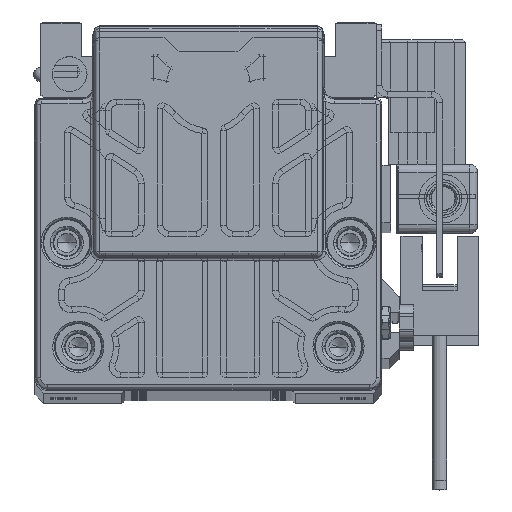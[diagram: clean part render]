
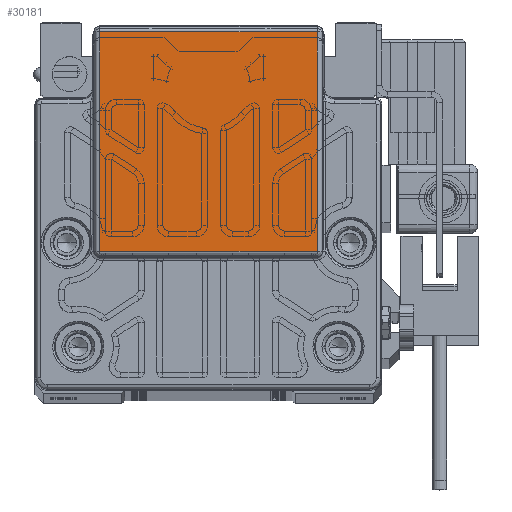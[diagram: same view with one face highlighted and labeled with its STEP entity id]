
A CAD part, top view. The second image highlights one B-rep face of the part: STEP entity #30181.
In plain terms, the highlighted planar face has unit normal (0, 0, 1) as drawn and (0, 0, -1) by its records, which use the part's own axes.
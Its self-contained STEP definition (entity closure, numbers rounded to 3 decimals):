
#248 = LINE ( 'NONE', #18480, #17784 ) ;
#2631 = EDGE_LOOP ( 'NONE', ( #63771, #77733, #44925, #75519 ) ) ;
#3721 = CARTESIAN_POINT ( 'NONE',  ( 19., 62.447, -143. ) ) ;
#11503 = LINE ( 'NONE', #35409, #57689 ) ;
#16182 = VERTEX_POINT ( 'NONE', #56972 ) ;
#17784 = VECTOR ( 'NONE', #67886, 1000. ) ;
#18157 = VECTOR ( 'NONE', #22363, 1000. ) ;
#18480 = CARTESIAN_POINT ( 'NONE',  ( 18.808, 24.5, -143. ) ) ;
#20561 = AXIS2_PLACEMENT_3D ( 'NONE', #45640, #33087, #22837 ) ;
#22363 = DIRECTION ( 'NONE',  ( 1., 0., 0. ) ) ;
#22837 = DIRECTION ( 'NONE',  ( 0., 1., 0. ) ) ;
#25021 = VERTEX_POINT ( 'NONE', #31866 ) ;
#26328 = VERTEX_POINT ( 'NONE', #42740 ) ;
#28813 = LINE ( 'NONE', #3721, #18157 ) ;
#29319 = DIRECTION ( 'NONE',  ( 0., -1., 0. ) ) ;
#30181 = ADVANCED_FACE ( 'NONE', ( #45248 ), #78343, .T. ) ;
#31866 = CARTESIAN_POINT ( 'NONE',  ( 18.808, 24.518, -143. ) ) ;
#33087 = DIRECTION ( 'NONE',  ( 0., 0., -1. ) ) ;
#35409 = CARTESIAN_POINT ( 'NONE',  ( -18.808, 31., -143. ) ) ;
#42740 = CARTESIAN_POINT ( 'NONE',  ( 18.808, 62.447, -143. ) ) ;
#44925 = ORIENTED_EDGE ( 'NONE', *, *, #56242, .F. ) ;
#45248 = FACE_OUTER_BOUND ( 'NONE', #2631, .T. ) ;
#45376 = EDGE_CURVE ( 'NONE', #25021, #26328, #248, .T. ) ;
#45640 = CARTESIAN_POINT ( 'NONE',  ( 19., 24.5, -143. ) ) ;
#49956 = EDGE_CURVE ( 'NONE', #16182, #25021, #50716, .T. ) ;
#50716 = LINE ( 'NONE', #56386, #63623 ) ;
#56242 = EDGE_CURVE ( 'NONE', #68624, #16182, #11503, .T. ) ;
#56386 = CARTESIAN_POINT ( 'NONE',  ( 19., 24.518, -143. ) ) ;
#56972 = CARTESIAN_POINT ( 'NONE',  ( -18.808, 24.518, -143. ) ) ;
#57689 = VECTOR ( 'NONE', #29319, 1000. ) ;
#57937 = CARTESIAN_POINT ( 'NONE',  ( -18.808, 62.447, -143. ) ) ;
#63623 = VECTOR ( 'NONE', #75446, 1000. ) ;
#63771 = ORIENTED_EDGE ( 'NONE', *, *, #45376, .F. ) ;
#67886 = DIRECTION ( 'NONE',  ( 0., 1., 0. ) ) ;
#68624 = VERTEX_POINT ( 'NONE', #57937 ) ;
#75446 = DIRECTION ( 'NONE',  ( 1., 0., 0. ) ) ;
#75519 = ORIENTED_EDGE ( 'NONE', *, *, #77763, .T. ) ;
#77733 = ORIENTED_EDGE ( 'NONE', *, *, #49956, .F. ) ;
#77763 = EDGE_CURVE ( 'NONE', #68624, #26328, #28813, .T. ) ;
#78343 = PLANE ( 'NONE',  #20561 ) ;
